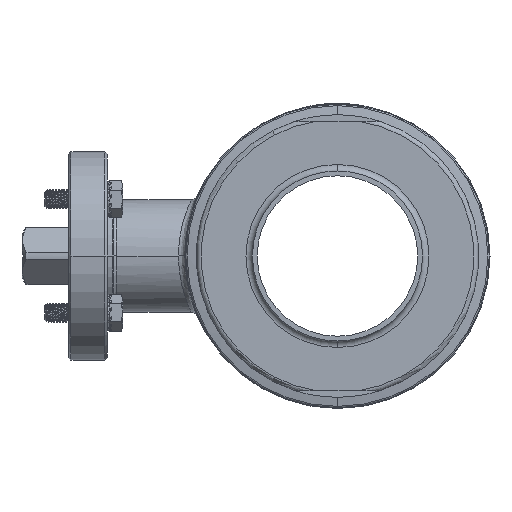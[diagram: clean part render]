
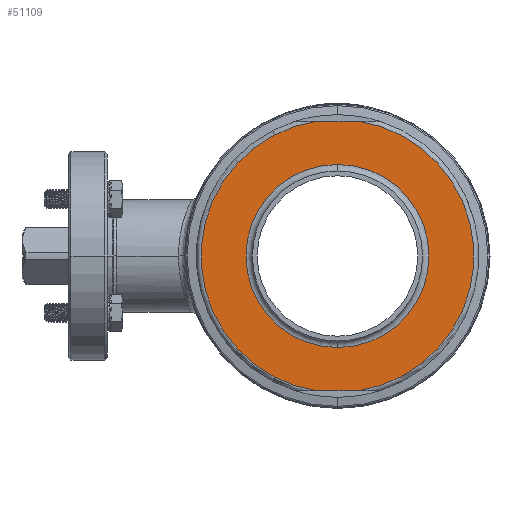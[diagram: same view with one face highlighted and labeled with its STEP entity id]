
A CAD part, left-side view. The second image highlights one B-rep face of the part: STEP entity #51109.
In plain terms, the highlighted planar face has unit normal (-1, 0, 0).
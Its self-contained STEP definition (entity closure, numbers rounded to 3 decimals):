
#10785=DIRECTION('',(0.,1.,0.));
#10786=VECTOR('',#10785,13.);
#10787=CARTESIAN_POINT('',(-49.,-6.5,-42.));
#10788=LINE('',#10787,#10786);
#10792=DIRECTION('',(0.,1.,0.));
#10793=VECTOR('',#10792,13.);
#10794=CARTESIAN_POINT('',(-49.,-6.5,42.));
#10795=LINE('',#10794,#10793);
#10799=CARTESIAN_POINT('',(-49.,0.,0.));
#10800=DIRECTION('',(-1.,0.,0.));
#10801=DIRECTION('',(0.,0.,1.));
#10802=AXIS2_PLACEMENT_3D('',#10799,#10800,#10801);
#10807=CARTESIAN_POINT('',(-49.,0.,0.));
#10808=DIRECTION('',(-1.,0.,0.));
#10809=DIRECTION('',(0.,0.,-1.));
#10810=AXIS2_PLACEMENT_3D('',#10807,#10808,#10809);
#10870=CARTESIAN_POINT('',(-49.,0.,0.));
#10871=DIRECTION('',(-1.,0.,0.));
#10872=DIRECTION('',(0.,-0.153,-0.988));
#10873=AXIS2_PLACEMENT_3D('',#10870,#10871,#10872);
#10952=CARTESIAN_POINT('',(-49.,0.,0.));
#10953=DIRECTION('',(1.,0.,0.));
#10954=DIRECTION('',(0.,0.153,-0.988));
#10955=AXIS2_PLACEMENT_3D('',#10952,#10953,#10954);
#44077=CARTESIAN_POINT('',(-49.,-6.5,-42.));
#44078=CARTESIAN_POINT('',(-49.,-6.5,42.));
#44079=VERTEX_POINT('',#44077);
#44080=VERTEX_POINT('',#44078);
#44085=CARTESIAN_POINT('',(-49.,6.5,-42.));
#44086=CARTESIAN_POINT('',(-49.,6.5,42.));
#44087=VERTEX_POINT('',#44085);
#44088=VERTEX_POINT('',#44086);
#44097=CARTESIAN_POINT('',(-49.,0.,28.5));
#44098=CARTESIAN_POINT('',(-49.,0.,-28.5));
#44099=VERTEX_POINT('',#44097);
#44100=VERTEX_POINT('',#44098);
#51089=CARTESIAN_POINT('',(-49.,0.,0.));
#51090=DIRECTION('',(-1.,0.,0.));
#51091=DIRECTION('',(0.,0.,1.));
#51092=AXIS2_PLACEMENT_3D('',#51089,#51090,#51091);
#51093=PLANE('',#51092);
#51095=ORIENTED_EDGE('',*,*,#51094,.T.);
#51097=ORIENTED_EDGE('',*,*,#51096,.T.);
#51099=ORIENTED_EDGE('',*,*,#51098,.F.);
#51101=ORIENTED_EDGE('',*,*,#51100,.F.);
#51102=EDGE_LOOP('',(#51095,#51097,#51099,#51101));
#51103=FACE_OUTER_BOUND('',#51102,.F.);
#51105=ORIENTED_EDGE('',*,*,#51104,.T.);
#51106=ORIENTED_EDGE('',*,*,#51079,.T.);
#51107=EDGE_LOOP('',(#51105,#51106));
#51108=FACE_BOUND('',#51107,.F.);
#51109=ADVANCED_FACE('',(#51103,#51108),#51093,.T.);
#10803=CIRCLE('',#10802,28.5);
#10811=CIRCLE('',#10810,28.5);
#10874=CIRCLE('',#10873,42.5);
#10956=CIRCLE('',#10955,42.5);
#51079=EDGE_CURVE('',#44100,#44099,#10811,.T.);
#51094=EDGE_CURVE('',#44079,#44087,#10788,.T.);
#51096=EDGE_CURVE('',#44087,#44088,#10956,.T.);
#51098=EDGE_CURVE('',#44080,#44088,#10795,.T.);
#51100=EDGE_CURVE('',#44079,#44080,#10874,.T.);
#51104=EDGE_CURVE('',#44099,#44100,#10803,.T.);
